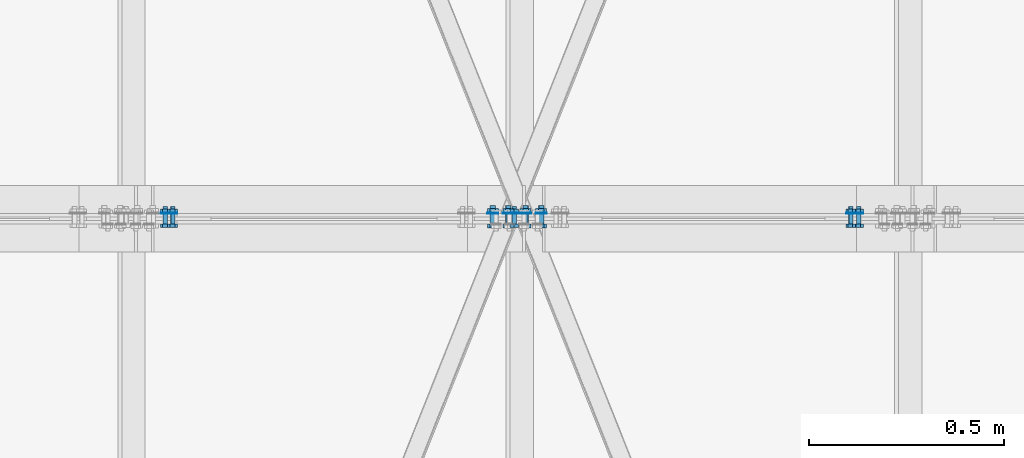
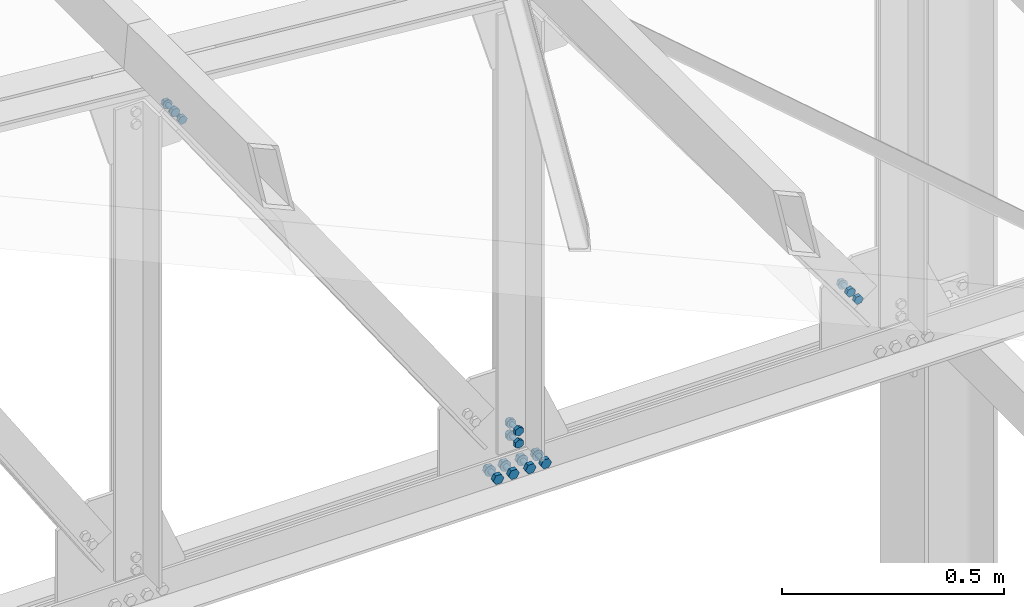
# One storey, part 171 of 251: 40 mechanical fasteners.
"""IFC4 building model written with IfcOpenShell, lengths in metres."""

from ifc_helpers import new_model, si_unit, frame, origin_with_axes, place, context, project, spatial, polyline, outline, extrude, type_object, element, save


model = new_model("IFC4")

# Units and contexts
model_context = context("Model", 3, precision=1e-05, world=origin_with_axes())
ifc_project = project(units=[si_unit("LENGTHUNIT", "METRE"), si_unit("AREAUNIT", "SQUARE_METRE"), si_unit("VOLUMEUNIT", "CUBIC_METRE"), si_unit("MASSUNIT", "GRAM", prefix="KILO"), si_unit("TIMEUNIT", "SECOND"), si_unit("PLANEANGLEUNIT", "RADIAN"), si_unit("SOLIDANGLEUNIT", "STERADIAN"), si_unit("THERMODYNAMICTEMPERATUREUNIT", "DEGREE_CELSIUS")], contexts=[model_context])

# Site, building, storey
placement_1 = place(None, origin_with_axes())
site = spatial("IfcSite", under=ifc_project, at=placement_1, Name="Italia", CompositionType="ELEMENT")
building = spatial("IfcBuilding", under=site, at=placement_1, Name="Deposito", CompositionType="ELEMENT")
storey = spatial("IfcBuildingStorey", under=building, at=placement_1, Name="Storey 0", CompositionType="ELEMENT", Elevation=0.0)

# Mechanical fasteners
mechanical_fastener_type_1 = type_object("IfcMechanicalFastenerType", Name="Reticolare 5", PredefinedType="BOLT")
placement_2 = place(placement_1, origin_with_axes())
mechanical_fastener_1_placement = place(placement_2, origin_with_axes())
element("IfcMechanicalFastener", 1, at=mechanical_fastener_1_placement, inside=storey, type_object=mechanical_fastener_type_1, Name="Reticolare 5", NominalDiameter=0.0139997, context=model_context, shape_type="SweptSolid", body=[
    extrude(outline(polyline([(0.0, 0.0), (-0.0140009, 0.0), (-0.0210009, 0.0121241), (-0.0140009, 0.0242486), (0.0, 0.0242486), (0.00699997, 0.0121241), (0.0, 0.0)])), frame((16.0002, 14.987, 4.99688), z_axis=(0.0, -1.0, 0.0), x_axis=(1.0, 0.0, 0.0)), (0.0, 0.0, 1.0), 0.0112009),
])
mechanical_fastener_type_2 = type_object("IfcMechanicalFastenerType", Name="Reticolare 5", PredefinedType="BOLT")
mechanical_fastener_2_placement = place(placement_2, origin_with_axes())
element("IfcMechanicalFastener", 2, at=mechanical_fastener_2_placement, inside=storey, type_object=mechanical_fastener_type_2, Name="Reticolare 5", NominalDiameter=0.014, context=model_context, shape_type="SweptSolid", body=[
    extrude(outline(polyline([(0.0, 0.0), (-0.000238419, -0.0018115), (-0.000937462, -0.00349998), (-0.0020504, -0.00494957), (-0.00349998, -0.00606203), (-0.00518799, -0.00676155), (-0.00699997, -0.00699997), (-0.00881195, -0.00676155), (-0.0105, -0.00606203), (-0.0119495, -0.00494957), (-0.0130625, -0.00349998), (-0.0137615, -0.0018115), (-0.0139999, 0.0), (-0.0137615, 0.0018115), (-0.0130625, 0.00349998), (-0.0119495, 0.00494957), (-0.0105, 0.00606203), (-0.00881195, 0.00676155), (-0.00699997, 0.00699997), (-0.00518799, 0.00676155), (-0.00349998, 0.00606203), (-0.0020504, 0.00494957), (-0.000937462, 0.00349998), (-0.000238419, 0.0018115), (0.0, 0.0)])), frame((16.0002, 15.034, 5.009), z_axis=(0.0, -1.0, 0.0), x_axis=(1.0, 0.0, 0.0)), (0.0, 0.0, 1.0), 0.0469999),
])
mechanical_fastener_type_3 = type_object("IfcMechanicalFastenerType", Name="Reticolare 5", PredefinedType="BOLT")
mechanical_fastener_3_placement = place(placement_2, origin_with_axes())
element("IfcMechanicalFastener", 3, at=mechanical_fastener_3_placement, inside=storey, type_object=mechanical_fastener_type_3, Name="Reticolare 5", NominalDiameter=0.0139997, context=model_context, shape_type="SweptSolid", body=[
    extrude(outline(polyline([(0.0, 0.0), (-0.0140009, 0.0), (-0.0210009, 0.0121241), (-0.0140009, 0.0242486), (0.0, 0.0242486), (0.00699997, 0.0121241), (0.0, 0.0)])), frame((16.0002, 15.0262, 4.99688), z_axis=(0.0, -1.0, 0.0), x_axis=(1.0, 0.0, 0.0)), (0.0, 0.0, 1.0), 0.0112),
])
mechanical_fastener_type_4 = type_object("IfcMechanicalFastenerType", Name="Reticolare 5", PredefinedType="BOLT")
mechanical_fastener_4_placement = place(placement_2, origin_with_axes())
element("IfcMechanicalFastener", 4, at=mechanical_fastener_4_placement, inside=storey, type_object=mechanical_fastener_type_4, Name="Reticolare 5", NominalDiameter=0.028, context=model_context, shape_type="SweptSolid", body=[
    extrude(outline(polyline([(0.0, 0.0), (-0.000478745, -0.00362349), (-0.00187683, -0.00699997), (-0.0041008, -0.00989962), (-0.00699997, -0.0121245), (-0.0103779, -0.0135231), (-0.0140009, -0.0139999), (-0.0176239, -0.0135231), (-0.0210009, -0.0121245), (-0.0239, -0.00989962), (-0.026125, -0.00699997), (-0.027524, -0.00362349), (-0.0280008, 0.0), (-0.027524, 0.00362349), (-0.026125, 0.00699997), (-0.0239, 0.00989962), (-0.0210009, 0.0121245), (-0.0176239, 0.0135231), (-0.0140009, 0.0139999), (-0.0103779, 0.0135231), (-0.00699997, 0.0121245), (-0.0041008, 0.00989962), (-0.00187683, 0.00699997), (-0.000478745, 0.00362349), (0.0, 0.0)])), frame((16.0072, 15.015, 5.009), z_axis=(0.0, -1.0, 0.0), x_axis=(1.0, 0.0, 0.0)), (0.0, 0.0, 1.0), 0.00200081),
])
mechanical_fastener_type_5 = type_object("IfcMechanicalFastenerType", Name="Reticolare 5", PredefinedType="BOLT")
mechanical_fastener_5_placement = place(placement_2, origin_with_axes())
element("IfcMechanicalFastener", 5, at=mechanical_fastener_5_placement, inside=storey, type_object=mechanical_fastener_type_5, Name="Reticolare 5", NominalDiameter=0.0139997, context=model_context, shape_type="SweptSolid", body=[
    extrude(outline(polyline([(0.0, 0.0), (-0.0139999, 0.0), (-0.0209999, 0.0121241), (-0.0139999, 0.0242486), (0.0, 0.0242486), (0.00699997, 0.0121241), (0.0, 0.0)])), frame((15.9602, 14.987, 4.99688), z_axis=(0.0, -1.0, 0.0), x_axis=(1.0, 0.0, 0.0)), (0.0, 0.0, 1.0), 0.0112009),
])
mechanical_fastener_type_6 = type_object("IfcMechanicalFastenerType", Name="Reticolare 5", PredefinedType="BOLT")
mechanical_fastener_6_placement = place(placement_2, origin_with_axes())
element("IfcMechanicalFastener", 6, at=mechanical_fastener_6_placement, inside=storey, type_object=mechanical_fastener_type_6, Name="Reticolare 5", NominalDiameter=0.014, context=model_context, shape_type="SweptSolid", body=[
    extrude(outline(polyline([(0.0, 0.0), (-0.000238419, -0.0018115), (-0.000937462, -0.00349998), (-0.0020504, -0.00494957), (-0.00349998, -0.00606203), (-0.00518799, -0.00676155), (-0.00699997, -0.00699997), (-0.00881195, -0.00676155), (-0.0105, -0.00606203), (-0.0119495, -0.00494957), (-0.0130625, -0.00349998), (-0.0137615, -0.0018115), (-0.0139999, 0.0), (-0.0137615, 0.0018115), (-0.0130625, 0.00349998), (-0.0119495, 0.00494957), (-0.0105, 0.00606203), (-0.00881195, 0.00676155), (-0.00699997, 0.00699997), (-0.00518799, 0.00676155), (-0.00349998, 0.00606203), (-0.0020504, 0.00494957), (-0.000937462, 0.00349998), (-0.000238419, 0.0018115), (0.0, 0.0)])), frame((15.9602, 15.034, 5.009), z_axis=(0.0, -1.0, 0.0), x_axis=(1.0, 0.0, 0.0)), (0.0, 0.0, 1.0), 0.0469999),
])
mechanical_fastener_type_7 = type_object("IfcMechanicalFastenerType", Name="Reticolare 5", PredefinedType="BOLT")
mechanical_fastener_7_placement = place(placement_2, origin_with_axes())
element("IfcMechanicalFastener", 7, at=mechanical_fastener_7_placement, inside=storey, type_object=mechanical_fastener_type_7, Name="Reticolare 5", NominalDiameter=0.0139997, context=model_context, shape_type="SweptSolid", body=[
    extrude(outline(polyline([(0.0, 0.0), (-0.0139999, 0.0), (-0.0209999, 0.0121241), (-0.0139999, 0.0242486), (0.0, 0.0242486), (0.00699997, 0.0121241), (0.0, 0.0)])), frame((15.9602, 15.0262, 4.99688), z_axis=(0.0, -1.0, 0.0), x_axis=(1.0, 0.0, 0.0)), (0.0, 0.0, 1.0), 0.0112),
])
mechanical_fastener_type_8 = type_object("IfcMechanicalFastenerType", Name="Reticolare 5", PredefinedType="BOLT")
mechanical_fastener_8_placement = place(placement_2, origin_with_axes())
element("IfcMechanicalFastener", 8, at=mechanical_fastener_8_placement, inside=storey, type_object=mechanical_fastener_type_8, Name="Reticolare 5", NominalDiameter=0.028, context=model_context, shape_type="SweptSolid", body=[
    extrude(outline(polyline([(0.0, 0.0), (-0.000476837, -0.00362349), (-0.00187588, -0.00699997), (-0.0041008, -0.00989962), (-0.00699997, -0.0121245), (-0.0103769, -0.0135231), (-0.0139999, -0.0139999), (-0.0176229, -0.0135231), (-0.0209999, -0.0121245), (-0.0238991, -0.00989962), (-0.026124, -0.00699997), (-0.027523, -0.00362349), (-0.0279999, 0.0), (-0.027523, 0.00362349), (-0.026124, 0.00699997), (-0.0238991, 0.00989962), (-0.0209999, 0.0121245), (-0.0176229, 0.0135231), (-0.0139999, 0.0139999), (-0.0103769, 0.0135231), (-0.00699997, 0.0121245), (-0.0041008, 0.00989962), (-0.00187588, 0.00699997), (-0.000476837, 0.00362349), (0.0, 0.0)])), frame((15.9672, 15.015, 5.009), z_axis=(0.0, -1.0, 0.0), x_axis=(1.0, 0.0, 0.0)), (0.0, 0.0, 1.0), 0.00200081),
])
mechanical_fastener_type_9 = type_object("IfcMechanicalFastenerType", Name="Reticolare 5", PredefinedType="BOLT")
mechanical_fastener_9_placement = place(placement_2, origin_with_axes())
element("IfcMechanicalFastener", 9, at=mechanical_fastener_9_placement, inside=storey, type_object=mechanical_fastener_type_9, Name="Reticolare 5", NominalDiameter=0.0139997, context=model_context, shape_type="SweptSolid", body=[
    extrude(outline(polyline([(0.0, 0.0), (-0.0139999, 0.0), (-0.0209999, 0.0121241), (-0.0139999, 0.0242486), (0.0, 0.0242486), (0.00699997, 0.0121241), (0.0, 0.0)])), frame((16.0442, 14.987, 4.99688), z_axis=(0.0, -1.0, 0.0), x_axis=(1.0, 0.0, 0.0)), (0.0, 0.0, 1.0), 0.0112009),
])
mechanical_fastener_type_10 = type_object("IfcMechanicalFastenerType", Name="Reticolare 5", PredefinedType="BOLT")
mechanical_fastener_10_placement = place(placement_2, origin_with_axes())
element("IfcMechanicalFastener", 10, at=mechanical_fastener_10_placement, inside=storey, type_object=mechanical_fastener_type_10, Name="Reticolare 5", NominalDiameter=0.014, context=model_context, shape_type="SweptSolid", body=[
    extrude(outline(polyline([(0.0, 0.0), (-0.000238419, -0.0018115), (-0.000938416, -0.00349998), (-0.0020504, -0.00494957), (-0.00349998, -0.00606203), (-0.00518799, -0.00676155), (-0.00699997, -0.00699997), (-0.00881195, -0.00676155), (-0.0105, -0.00606203), (-0.0119495, -0.00494957), (-0.0130615, -0.00349998), (-0.0137615, -0.0018115), (-0.0139999, 0.0), (-0.0137615, 0.0018115), (-0.0130615, 0.00349998), (-0.0119495, 0.00494957), (-0.0105, 0.00606203), (-0.00881195, 0.00676155), (-0.00699997, 0.00699997), (-0.00518799, 0.00676155), (-0.00349998, 0.00606203), (-0.0020504, 0.00494957), (-0.000938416, 0.00349998), (-0.000238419, 0.0018115), (0.0, 0.0)])), frame((16.0442, 15.034, 5.009), z_axis=(0.0, -1.0, 0.0), x_axis=(1.0, 0.0, 0.0)), (0.0, 0.0, 1.0), 0.0469999),
])
mechanical_fastener_type_11 = type_object("IfcMechanicalFastenerType", Name="Reticolare 5", PredefinedType="BOLT")
mechanical_fastener_11_placement = place(placement_2, origin_with_axes())
element("IfcMechanicalFastener", 11, at=mechanical_fastener_11_placement, inside=storey, type_object=mechanical_fastener_type_11, Name="Reticolare 5", NominalDiameter=0.0139997, context=model_context, shape_type="SweptSolid", body=[
    extrude(outline(polyline([(0.0, 0.0), (-0.0139999, 0.0), (-0.0209999, 0.0121241), (-0.0139999, 0.0242486), (0.0, 0.0242486), (0.00699997, 0.0121241), (0.0, 0.0)])), frame((16.0442, 15.0262, 4.99688), z_axis=(0.0, -1.0, 0.0), x_axis=(1.0, 0.0, 0.0)), (0.0, 0.0, 1.0), 0.0112),
])
mechanical_fastener_type_12 = type_object("IfcMechanicalFastenerType", Name="Reticolare 5", PredefinedType="BOLT")
mechanical_fastener_12_placement = place(placement_2, origin_with_axes())
element("IfcMechanicalFastener", 12, at=mechanical_fastener_12_placement, inside=storey, type_object=mechanical_fastener_type_12, Name="Reticolare 5", NominalDiameter=0.028, context=model_context, shape_type="SweptSolid", body=[
    extrude(outline(polyline([(0.0, 0.0), (-0.000476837, -0.00362349), (-0.00187492, -0.00699997), (-0.0041008, -0.00989962), (-0.00699997, -0.0121245), (-0.010376, -0.0135231), (-0.0139999, -0.0139999), (-0.0176239, -0.0135231), (-0.0209999, -0.0121245), (-0.0238991, -0.00989962), (-0.026125, -0.00699997), (-0.027523, -0.00362349), (-0.0279999, 0.0), (-0.027523, 0.00362349), (-0.026125, 0.00699997), (-0.0238991, 0.00989962), (-0.0209999, 0.0121245), (-0.0176239, 0.0135231), (-0.0139999, 0.0139999), (-0.010376, 0.0135231), (-0.00699997, 0.0121245), (-0.0041008, 0.00989962), (-0.00187492, 0.00699997), (-0.000476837, 0.00362349), (0.0, 0.0)])), frame((16.0512, 15.015, 5.009), z_axis=(0.0, -1.0, 0.0), x_axis=(1.0, 0.0, 0.0)), (0.0, 0.0, 1.0), 0.00200081),
])
mechanical_fastener_type_13 = type_object("IfcMechanicalFastenerType", Name="Reticolare 5", PredefinedType="BOLT")
mechanical_fastener_13_placement = place(placement_2, origin_with_axes())
element("IfcMechanicalFastener", 13, at=mechanical_fastener_13_placement, inside=storey, type_object=mechanical_fastener_type_13, Name="Reticolare 5", NominalDiameter=0.0139997, context=model_context, shape_type="SweptSolid", body=[
    extrude(outline(polyline([(0.0, 0.0), (-0.0139999, 0.0), (-0.0209999, 0.0121241), (-0.0139999, 0.0242486), (0.0, 0.0242486), (0.00699997, 0.0121241), (0.0, 0.0)])), frame((16.0842, 14.987, 4.99688), z_axis=(0.0, -1.0, 0.0), x_axis=(1.0, 0.0, 0.0)), (0.0, 0.0, 1.0), 0.0112009),
])
mechanical_fastener_type_14 = type_object("IfcMechanicalFastenerType", Name="Reticolare 5", PredefinedType="BOLT")
mechanical_fastener_14_placement = place(placement_2, origin_with_axes())
element("IfcMechanicalFastener", 14, at=mechanical_fastener_14_placement, inside=storey, type_object=mechanical_fastener_type_14, Name="Reticolare 5", NominalDiameter=0.014, context=model_context, shape_type="SweptSolid", body=[
    extrude(outline(polyline([(0.0, 0.0), (-0.000238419, -0.0018115), (-0.000938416, -0.00349998), (-0.0020504, -0.00494957), (-0.00349998, -0.00606203), (-0.00518799, -0.00676155), (-0.00699997, -0.00699997), (-0.00881195, -0.00676155), (-0.0105, -0.00606203), (-0.0119495, -0.00494957), (-0.0130615, -0.00349998), (-0.0137615, -0.0018115), (-0.0139999, 0.0), (-0.0137615, 0.0018115), (-0.0130615, 0.00349998), (-0.0119495, 0.00494957), (-0.0105, 0.00606203), (-0.00881195, 0.00676155), (-0.00699997, 0.00699997), (-0.00518799, 0.00676155), (-0.00349998, 0.00606203), (-0.0020504, 0.00494957), (-0.000938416, 0.00349998), (-0.000238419, 0.0018115), (0.0, 0.0)])), frame((16.0842, 15.034, 5.009), z_axis=(0.0, -1.0, 0.0), x_axis=(1.0, 0.0, 0.0)), (0.0, 0.0, 1.0), 0.0469999),
])
mechanical_fastener_type_15 = type_object("IfcMechanicalFastenerType", Name="Reticolare 5", PredefinedType="BOLT")
mechanical_fastener_15_placement = place(placement_2, origin_with_axes())
element("IfcMechanicalFastener", 15, at=mechanical_fastener_15_placement, inside=storey, type_object=mechanical_fastener_type_15, Name="Reticolare 5", NominalDiameter=0.0139997, context=model_context, shape_type="SweptSolid", body=[
    extrude(outline(polyline([(0.0, 0.0), (-0.0139999, 0.0), (-0.0209999, 0.0121241), (-0.0139999, 0.0242486), (0.0, 0.0242486), (0.00699997, 0.0121241), (0.0, 0.0)])), frame((16.0842, 15.0262, 4.99688), z_axis=(0.0, -1.0, 0.0), x_axis=(1.0, 0.0, 0.0)), (0.0, 0.0, 1.0), 0.0112),
])
mechanical_fastener_type_16 = type_object("IfcMechanicalFastenerType", Name="Reticolare 5", PredefinedType="BOLT")
mechanical_fastener_16_placement = place(placement_2, origin_with_axes())
element("IfcMechanicalFastener", 16, at=mechanical_fastener_16_placement, inside=storey, type_object=mechanical_fastener_type_16, Name="Reticolare 5", NominalDiameter=0.028, context=model_context, shape_type="SweptSolid", body=[
    extrude(outline(polyline([(0.0, 0.0), (-0.000476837, -0.00362349), (-0.00187492, -0.00699997), (-0.0041008, -0.00989962), (-0.00699997, -0.0121245), (-0.010376, -0.0135231), (-0.0139999, -0.0139999), (-0.0176239, -0.0135231), (-0.0209999, -0.0121245), (-0.0238991, -0.00989962), (-0.026125, -0.00699997), (-0.027523, -0.00362349), (-0.0279999, 0.0), (-0.027523, 0.00362349), (-0.026125, 0.00699997), (-0.0238991, 0.00989962), (-0.0209999, 0.0121245), (-0.0176239, 0.0135231), (-0.0139999, 0.0139999), (-0.010376, 0.0135231), (-0.00699997, 0.0121245), (-0.0041008, 0.00989962), (-0.00187492, 0.00699997), (-0.000476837, 0.00362349), (0.0, 0.0)])), frame((16.0912, 15.015, 5.009), z_axis=(0.0, -1.0, 0.0), x_axis=(1.0, 0.0, 0.0)), (0.0, 0.0, 1.0), 0.00200081),
])
mechanical_fastener_type_17 = type_object("IfcMechanicalFastenerType", Name="Reticolare 5", PredefinedType="BOLT")
mechanical_fastener_17_placement = place(placement_2, origin_with_axes())
element("IfcMechanicalFastener", 17, at=mechanical_fastener_17_placement, inside=storey, type_object=mechanical_fastener_type_17, Name="Reticolare 5", NominalDiameter=0.0119999, context=model_context, shape_type="SweptSolid", body=[
    extrude(outline(polyline([(0.0, 0.0), (0.0, -0.0120001), (-0.0103931, -0.0180001), (-0.0207853, -0.0120001), (-0.0207853, 0.0), (-0.0103931, 0.00600004), (0.0, 0.0)])), frame((16.0186, 14.987, 5.09253), z_axis=(0.0, -1.0, 0.0), x_axis=(1.0, 0.0, 0.0)), (0.0, 0.0, 1.0), 0.00960064),
])
mechanical_fastener_type_18 = type_object("IfcMechanicalFastenerType", Name="Reticolare 5", PredefinedType="BOLT")
mechanical_fastener_18_placement = place(placement_2, origin_with_axes())
element("IfcMechanicalFastener", 18, at=mechanical_fastener_18_placement, inside=storey, type_object=mechanical_fastener_type_18, Name="Reticolare 5", NominalDiameter=0.012, context=model_context, shape_type="SweptSolid", body=[
    extrude(outline(polyline([(0.0, 0.0), (-0.000204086, -0.00155306), (-0.000804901, -0.00299978), (-0.00175858, -0.00424242), (-0.00300026, -0.00519609), (-0.00444794, -0.00579548), (-0.00600052, -0.00600004), (-0.0075531, -0.00579548), (-0.00900078, -0.00519609), (-0.0102425, -0.00424242), (-0.0111961, -0.00299978), (-0.011797, -0.00155306), (-0.012001, 0.0), (-0.011797, 0.00155306), (-0.0111961, 0.00299978), (-0.0102425, 0.00424242), (-0.00900078, 0.00519609), (-0.0075531, 0.00579548), (-0.00600052, 0.00600004), (-0.00444794, 0.00579548), (-0.00300026, 0.00519609), (-0.00175858, 0.00424242), (-0.000804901, 0.00299978), (-0.000204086, 0.00155306), (0.0, 0.0)])), frame((16.0142, 15.031, 5.08653), z_axis=(0.0, -1.0, 0.0), x_axis=(1.0, 0.0, 0.0)), (0.0, 0.0, 1.0), 0.0439997),
])
mechanical_fastener_type_19 = type_object("IfcMechanicalFastenerType", Name="Reticolare 5", PredefinedType="BOLT")
mechanical_fastener_19_placement = place(placement_2, origin_with_axes())
element("IfcMechanicalFastener", 19, at=mechanical_fastener_19_placement, inside=storey, type_object=mechanical_fastener_type_19, Name="Reticolare 5", NominalDiameter=0.0119999, context=model_context, shape_type="SweptSolid", body=[
    extrude(outline(polyline([(0.0, 0.0), (0.0, -0.0120001), (-0.0103931, -0.0180001), (-0.0207853, -0.0120001), (-0.0207853, 0.0), (-0.0103931, 0.00600004), (0.0, 0.0)])), frame((16.0186, 15.0246, 5.09253), z_axis=(0.0, -1.0, 0.0), x_axis=(1.0, 0.0, 0.0)), (0.0, 0.0, 1.0), 0.00959969),
])
mechanical_fastener_type_20 = type_object("IfcMechanicalFastenerType", Name="Reticolare 5", PredefinedType="BOLT")
mechanical_fastener_20_placement = place(placement_2, origin_with_axes())
element("IfcMechanicalFastener", 20, at=mechanical_fastener_20_placement, inside=storey, type_object=mechanical_fastener_type_20, Name="Reticolare 5", NominalDiameter=0.024, context=model_context, shape_type="SweptSolid", body=[
    extrude(outline(polyline([(0.0, 0.0), (-0.000408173, -0.00310564), (-0.00160599, -0.00600004), (-0.00351334, -0.00848532), (-0.00599861, -0.0103922), (-0.00889397, -0.011591), (-0.0119991, -0.0120001), (-0.0151043, -0.011591), (-0.0179996, -0.0103922), (-0.020484, -0.00848532), (-0.0223913, -0.00600004), (-0.0235901, -0.00310564), (-0.0239992, 0.0), (-0.0235901, 0.00310564), (-0.0223913, 0.00600004), (-0.020484, 0.00848532), (-0.0179996, 0.0103922), (-0.0151043, 0.011591), (-0.0119991, 0.0120001), (-0.00889397, 0.011591), (-0.00599861, 0.0103922), (-0.00351334, 0.00848532), (-0.00160599, 0.00600004), (-0.000408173, 0.00310564), (0.0, 0.0)])), frame((16.0202, 15.015, 5.08653), z_axis=(0.0, -1.0, 0.0), x_axis=(1.0, 0.0, 0.0)), (0.0, 0.0, 1.0), 0.00200081),
])
mechanical_fastener_type_21 = type_object("IfcMechanicalFastenerType", Name="Reticolare 5", PredefinedType="BOLT")
mechanical_fastener_21_placement = place(placement_2, origin_with_axes())
element("IfcMechanicalFastener", 21, at=mechanical_fastener_21_placement, inside=storey, type_object=mechanical_fastener_type_21, Name="Reticolare 5", NominalDiameter=0.0119999, context=model_context, shape_type="SweptSolid", body=[
    extrude(outline(polyline([(0.0, 0.0), (0.0, -0.0120001), (-0.0103931, -0.0180001), (-0.0207853, -0.0120001), (-0.0207853, 0.0), (-0.0103931, 0.00600004), (0.0, 0.0)])), frame((16.0186, 14.987, 5.12653), z_axis=(0.0, -1.0, 0.0), x_axis=(1.0, 0.0, 0.0)), (0.0, 0.0, 1.0), 0.00960064),
])
mechanical_fastener_type_22 = type_object("IfcMechanicalFastenerType", Name="Reticolare 5", PredefinedType="BOLT")
mechanical_fastener_22_placement = place(placement_2, origin_with_axes())
element("IfcMechanicalFastener", 22, at=mechanical_fastener_22_placement, inside=storey, type_object=mechanical_fastener_type_22, Name="Reticolare 5", NominalDiameter=0.012, context=model_context, shape_type="SweptSolid", body=[
    extrude(outline(polyline([(0.0, 0.0), (-0.000204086, -0.00155306), (-0.000804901, -0.00299978), (-0.00175858, -0.00424242), (-0.00300026, -0.00519609), (-0.00444794, -0.00579548), (-0.00600052, -0.00600004), (-0.0075531, -0.00579548), (-0.00900078, -0.00519609), (-0.0102425, -0.00424242), (-0.0111961, -0.00299978), (-0.011797, -0.00155306), (-0.012001, 0.0), (-0.011797, 0.00155306), (-0.0111961, 0.00299978), (-0.0102425, 0.00424242), (-0.00900078, 0.00519609), (-0.0075531, 0.00579548), (-0.00600052, 0.00600004), (-0.00444794, 0.00579548), (-0.00300026, 0.00519609), (-0.00175858, 0.00424242), (-0.000804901, 0.00299978), (-0.000204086, 0.00155306), (0.0, 0.0)])), frame((16.0142, 15.031, 5.12053), z_axis=(0.0, -1.0, 0.0), x_axis=(1.0, 0.0, 0.0)), (0.0, 0.0, 1.0), 0.0439997),
])
mechanical_fastener_type_23 = type_object("IfcMechanicalFastenerType", Name="Reticolare 5", PredefinedType="BOLT")
mechanical_fastener_23_placement = place(placement_2, origin_with_axes())
element("IfcMechanicalFastener", 23, at=mechanical_fastener_23_placement, inside=storey, type_object=mechanical_fastener_type_23, Name="Reticolare 5", NominalDiameter=0.0119999, context=model_context, shape_type="SweptSolid", body=[
    extrude(outline(polyline([(0.0, 0.0), (0.0, -0.0120001), (-0.0103931, -0.0180001), (-0.0207853, -0.0120001), (-0.0207853, 0.0), (-0.0103931, 0.00600004), (0.0, 0.0)])), frame((16.0186, 15.0246, 5.12653), z_axis=(0.0, -1.0, 0.0), x_axis=(1.0, 0.0, 0.0)), (0.0, 0.0, 1.0), 0.00959969),
])
mechanical_fastener_type_24 = type_object("IfcMechanicalFastenerType", Name="Reticolare 5", PredefinedType="BOLT")
mechanical_fastener_24_placement = place(placement_2, origin_with_axes())
element("IfcMechanicalFastener", 24, at=mechanical_fastener_24_placement, inside=storey, type_object=mechanical_fastener_type_24, Name="Reticolare 5", NominalDiameter=0.024, context=model_context, shape_type="SweptSolid", body=[
    extrude(outline(polyline([(0.0, 0.0), (-0.000408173, -0.00310564), (-0.00160599, -0.00600004), (-0.00351334, -0.00848532), (-0.00599861, -0.0103922), (-0.00889397, -0.011591), (-0.0119991, -0.0120001), (-0.0151043, -0.011591), (-0.0179996, -0.0103922), (-0.020484, -0.00848532), (-0.0223913, -0.00600004), (-0.0235901, -0.00310564), (-0.0239992, 0.0), (-0.0235901, 0.00310564), (-0.0223913, 0.00600004), (-0.020484, 0.00848532), (-0.0179996, 0.0103922), (-0.0151043, 0.011591), (-0.0119991, 0.0120001), (-0.00889397, 0.011591), (-0.00599861, 0.0103922), (-0.00351334, 0.00848532), (-0.00160599, 0.00600004), (-0.000408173, 0.00310564), (0.0, 0.0)])), frame((16.0202, 15.015, 5.12053), z_axis=(0.0, -1.0, 0.0), x_axis=(1.0, 0.0, 0.0)), (0.0, 0.0, 1.0), 0.00200081),
])
mechanical_fastener_type_25 = type_object("IfcMechanicalFastenerType", Name="Reticolare 5", PredefinedType="BOLT")
mechanical_fastener_25_placement = place(placement_2, origin_with_axes())
element("IfcMechanicalFastener", 25, at=mechanical_fastener_25_placement, inside=storey, type_object=mechanical_fastener_type_25, Name="Reticolare 5", NominalDiameter=0.0119989, context=model_context, shape_type="SweptSolid", body=[
    extrude(outline(polyline([(0.0, 0.0), (-0.00712967, 0.00965214), (-0.0023365, 0.0206528), (0.00958824, 0.0220017), (0.0167179, 0.0123491), (0.0119228, 0.0013485), (0.0, 0.0)])), frame((16.8872, 14.987, 5.16246), z_axis=(0.0, -1.0, 0.0), x_axis=(1.0, 0.0, 0.0)), (0.0, 0.0, 1.0), 0.00960064),
])
mechanical_fastener_type_26 = type_object("IfcMechanicalFastenerType", Name="Reticolare 5", PredefinedType="BOLT")
mechanical_fastener_26_placement = place(placement_2, origin_with_axes())
element("IfcMechanicalFastener", 26, at=mechanical_fastener_26_placement, inside=storey, type_object=mechanical_fastener_type_26, Name="Reticolare 5", NominalDiameter=0.012, context=model_context, shape_type="SweptSolid", body=[
    extrude(outline(polyline([(0.0, 0.0), (-0.000204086, -0.00155306), (-0.000804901, -0.00299978), (-0.00175858, -0.00424242), (-0.00300026, -0.00519609), (-0.00444794, -0.00579548), (-0.00600052, -0.00600004), (-0.0075531, -0.00579548), (-0.00900078, -0.00519609), (-0.0102425, -0.00424242), (-0.0111961, -0.00299978), (-0.011797, -0.00155306), (-0.012001, 0.0), (-0.011797, 0.00155306), (-0.0111961, 0.00299978), (-0.0102425, 0.00424242), (-0.00900078, 0.00519609), (-0.0075531, 0.00579548), (-0.00600052, 0.00600004), (-0.00444794, 0.00579548), (-0.00300026, 0.00519609), (-0.00175858, 0.00424242), (-0.000804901, 0.00299978), (-0.000204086, 0.00155306), (0.0, 0.0)])), frame((16.898, 15.031, 5.17346), z_axis=(0.0, -1.0, 0.0), x_axis=(1.0, 0.0, 0.0)), (0.0, 0.0, 1.0), 0.0439997),
])
mechanical_fastener_type_27 = type_object("IfcMechanicalFastenerType", Name="Reticolare 5", PredefinedType="BOLT")
mechanical_fastener_27_placement = place(placement_2, origin_with_axes())
element("IfcMechanicalFastener", 27, at=mechanical_fastener_27_placement, inside=storey, type_object=mechanical_fastener_type_27, Name="Reticolare 5", NominalDiameter=0.0119989, context=model_context, shape_type="SweptSolid", body=[
    extrude(outline(polyline([(0.0, 0.0), (-0.00712967, 0.00965214), (-0.0023365, 0.0206528), (0.00958824, 0.0220017), (0.0167179, 0.0123491), (0.0119228, 0.0013485), (0.0, 0.0)])), frame((16.8872, 15.0246, 5.16246), z_axis=(0.0, -1.0, 0.0), x_axis=(1.0, 0.0, 0.0)), (0.0, 0.0, 1.0), 0.00959969),
])
mechanical_fastener_type_28 = type_object("IfcMechanicalFastenerType", Name="Reticolare 5", PredefinedType="BOLT")
mechanical_fastener_28_placement = place(placement_2, origin_with_axes())
element("IfcMechanicalFastener", 28, at=mechanical_fastener_28_placement, inside=storey, type_object=mechanical_fastener_type_28, Name="Reticolare 5", NominalDiameter=0.024, context=model_context, shape_type="SweptSolid", body=[
    extrude(outline(polyline([(0.0, 0.0), (-0.000408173, -0.00310564), (-0.00160599, -0.00600004), (-0.00351334, -0.00848532), (-0.00599861, -0.0103922), (-0.00889397, -0.011591), (-0.0119991, -0.0120001), (-0.0151043, -0.011591), (-0.0179996, -0.0103922), (-0.0204849, -0.00848532), (-0.0223923, -0.00600004), (-0.0235901, -0.00310564), (-0.0239983, 0.0), (-0.0235901, 0.00310564), (-0.0223923, 0.00600004), (-0.0204849, 0.00848532), (-0.0179996, 0.0103922), (-0.0151043, 0.011591), (-0.0119991, 0.0120001), (-0.00889397, 0.011591), (-0.00599861, 0.0103922), (-0.00351334, 0.00848532), (-0.00160599, 0.00600004), (-0.000408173, 0.00310564), (0.0, 0.0)])), frame((16.904, 15.015, 5.17346), z_axis=(0.0, -1.0, 0.0), x_axis=(1.0, 0.0, 0.0)), (0.0, 0.0, 1.0), 0.00200081),
])
mechanical_fastener_type_29 = type_object("IfcMechanicalFastenerType", Name="Reticolare 5", PredefinedType="BOLT")
mechanical_fastener_29_placement = place(placement_2, origin_with_axes())
element("IfcMechanicalFastener", 29, at=mechanical_fastener_29_placement, inside=storey, type_object=mechanical_fastener_type_29, Name="Reticolare 5", NominalDiameter=0.0119989, context=model_context, shape_type="SweptSolid", body=[
    extrude(outline(polyline([(0.0, 0.0), (-0.00713158, 0.00965214), (-0.0023365, 0.0206528), (0.00958824, 0.0220013), (0.0167179, 0.0123491), (0.0119228, 0.0013485), (0.0, 0.0)])), frame((16.867, 14.987, 5.18981), z_axis=(0.0, -1.0, 0.0), x_axis=(1.0, 0.0, 0.0)), (0.0, 0.0, 1.0), 0.00960064),
])
mechanical_fastener_type_30 = type_object("IfcMechanicalFastenerType", Name="Reticolare 5", PredefinedType="BOLT")
mechanical_fastener_30_placement = place(placement_2, origin_with_axes())
element("IfcMechanicalFastener", 30, at=mechanical_fastener_30_placement, inside=storey, type_object=mechanical_fastener_type_30, Name="Reticolare 5", NominalDiameter=0.012, context=model_context, shape_type="SweptSolid", body=[
    extrude(outline(polyline([(0.0, 0.0), (-0.000204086, -0.00155306), (-0.000804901, -0.00299978), (-0.00175858, -0.00424242), (-0.00300026, -0.00519609), (-0.00444794, -0.00579548), (-0.00600052, -0.00600004), (-0.0075531, -0.00579548), (-0.00900078, -0.00519609), (-0.0102425, -0.00424242), (-0.0111961, -0.00299978), (-0.011797, -0.00155306), (-0.012001, 0.0), (-0.011797, 0.00155306), (-0.0111961, 0.00299978), (-0.0102425, 0.00424242), (-0.00900078, 0.00519609), (-0.0075531, 0.00579548), (-0.00600052, 0.00600004), (-0.00444794, 0.00579548), (-0.00300026, 0.00519609), (-0.00175858, 0.00424242), (-0.000804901, 0.00299978), (-0.000204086, 0.00155306), (0.0, 0.0)])), frame((16.8778, 15.031, 5.20081), z_axis=(0.0, -1.0, 0.0), x_axis=(1.0, 0.0, 0.0)), (0.0, 0.0, 1.0), 0.0439997),
])
mechanical_fastener_type_31 = type_object("IfcMechanicalFastenerType", Name="Reticolare 5", PredefinedType="BOLT")
mechanical_fastener_31_placement = place(placement_2, origin_with_axes())
element("IfcMechanicalFastener", 31, at=mechanical_fastener_31_placement, inside=storey, type_object=mechanical_fastener_type_31, Name="Reticolare 5", NominalDiameter=0.0119989, context=model_context, shape_type="SweptSolid", body=[
    extrude(outline(polyline([(0.0, 0.0), (-0.00713158, 0.00965214), (-0.0023365, 0.0206528), (0.00958824, 0.0220013), (0.0167179, 0.0123491), (0.0119228, 0.0013485), (0.0, 0.0)])), frame((16.867, 15.0246, 5.18981), z_axis=(0.0, -1.0, 0.0), x_axis=(1.0, 0.0, 0.0)), (0.0, 0.0, 1.0), 0.00959969),
])
mechanical_fastener_type_32 = type_object("IfcMechanicalFastenerType", Name="Reticolare 5", PredefinedType="BOLT")
mechanical_fastener_32_placement = place(placement_2, origin_with_axes())
element("IfcMechanicalFastener", 32, at=mechanical_fastener_32_placement, inside=storey, type_object=mechanical_fastener_type_32, Name="Reticolare 5", NominalDiameter=0.024, context=model_context, shape_type="SweptSolid", body=[
    extrude(outline(polyline([(0.0, 0.0), (-0.000408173, -0.00310564), (-0.00160599, -0.00600004), (-0.00351334, -0.00848532), (-0.00599861, -0.0103922), (-0.00889397, -0.011591), (-0.0119991, -0.0120001), (-0.0151043, -0.011591), (-0.0179996, -0.0103922), (-0.0204849, -0.00848532), (-0.0223923, -0.00600004), (-0.0235901, -0.00310564), (-0.0239983, 0.0), (-0.0235901, 0.00310564), (-0.0223923, 0.00600004), (-0.0204849, 0.00848532), (-0.0179996, 0.0103922), (-0.0151043, 0.011591), (-0.0119991, 0.0120001), (-0.00889397, 0.011591), (-0.00599861, 0.0103922), (-0.00351334, 0.00848532), (-0.00160599, 0.00600004), (-0.000408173, 0.00310564), (0.0, 0.0)])), frame((16.8838, 15.015, 5.20081), z_axis=(0.0, -1.0, 0.0), x_axis=(1.0, 0.0, 0.0)), (0.0, 0.0, 1.0), 0.00200081),
])
mechanical_fastener_type_33 = type_object("IfcMechanicalFastenerType", Name="Reticolare 5", PredefinedType="BOLT")
mechanical_fastener_33_placement = place(placement_2, origin_with_axes())
element("IfcMechanicalFastener", 33, at=mechanical_fastener_33_placement, inside=storey, type_object=mechanical_fastener_type_33, Name="Reticolare 5", NominalDiameter=0.0119994, context=model_context, shape_type="SweptSolid", body=[
    extrude(outline(polyline([(0.0, 0.0), (-0.00684071, 0.00985909), (-0.00172234, 0.0207129), (0.0102358, 0.0217075), (0.0170765, 0.0118484), (0.0119591, 0.000994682), (0.0, 0.0)])), frame((15.1078, 14.987, 6.30185), z_axis=(0.0, -1.0, 0.0), x_axis=(1.0, 0.0, 0.0)), (0.0, 0.0, 1.0), 0.00960064),
])
mechanical_fastener_type_34 = type_object("IfcMechanicalFastenerType", Name="Reticolare 5", PredefinedType="BOLT")
mechanical_fastener_34_placement = place(placement_2, origin_with_axes())
element("IfcMechanicalFastener", 34, at=mechanical_fastener_34_placement, inside=storey, type_object=mechanical_fastener_type_34, Name="Reticolare 5", NominalDiameter=0.012, context=model_context, shape_type="SweptSolid", body=[
    extrude(outline(polyline([(0.0, 0.0), (-0.000204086, -0.00155306), (-0.000802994, -0.00299978), (-0.00175667, -0.00424242), (-0.00299931, -0.00519609), (-0.00444698, -0.00579548), (-0.00599957, -0.00600004), (-0.00755215, -0.00579548), (-0.00899982, -0.00519609), (-0.0102425, -0.00424242), (-0.0111961, -0.00299978), (-0.011795, -0.00155306), (-0.0119991, 0.0), (-0.011795, 0.00155306), (-0.0111961, 0.00299978), (-0.0102425, 0.00424242), (-0.00899982, 0.00519609), (-0.00755215, 0.00579548), (-0.00599957, 0.00600004), (-0.00444698, 0.00579548), (-0.00299931, 0.00519609), (-0.00175667, 0.00424242), (-0.000802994, 0.00299978), (-0.000204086, 0.00155306), (0.0, 0.0)])), frame((15.1189, 15.031, 6.3127), z_axis=(0.0, -1.0, 0.0), x_axis=(1.0, 0.0, 0.0)), (0.0, 0.0, 1.0), 0.0439997),
])
mechanical_fastener_type_35 = type_object("IfcMechanicalFastenerType", Name="Reticolare 5", PredefinedType="BOLT")
mechanical_fastener_35_placement = place(placement_2, origin_with_axes())
element("IfcMechanicalFastener", 35, at=mechanical_fastener_35_placement, inside=storey, type_object=mechanical_fastener_type_35, Name="Reticolare 5", NominalDiameter=0.0119994, context=model_context, shape_type="SweptSolid", body=[
    extrude(outline(polyline([(0.0, 0.0), (-0.00684071, 0.00985909), (-0.00172234, 0.0207129), (0.0102358, 0.0217075), (0.0170765, 0.0118484), (0.0119591, 0.000994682), (0.0, 0.0)])), frame((15.1078, 15.0246, 6.30185), z_axis=(0.0, -1.0, 0.0), x_axis=(1.0, 0.0, 0.0)), (0.0, 0.0, 1.0), 0.00959969),
])
mechanical_fastener_type_36 = type_object("IfcMechanicalFastenerType", Name="Reticolare 5", PredefinedType="BOLT")
mechanical_fastener_36_placement = place(placement_2, origin_with_axes())
element("IfcMechanicalFastener", 36, at=mechanical_fastener_36_placement, inside=storey, type_object=mechanical_fastener_type_36, Name="Reticolare 5", NominalDiameter=0.024, context=model_context, shape_type="SweptSolid", body=[
    extrude(outline(polyline([(0.0, 0.0), (-0.000409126, -0.00310564), (-0.00160789, -0.00600004), (-0.00351524, -0.00848532), (-0.00600052, -0.0103922), (-0.00889397, -0.011591), (-0.0120001, -0.0120001), (-0.0151062, -0.011591), (-0.0179996, -0.0103922), (-0.0204849, -0.00848532), (-0.0223923, -0.00600004), (-0.023591, -0.00310564), (-0.0240002, 0.0), (-0.023591, 0.00310564), (-0.0223923, 0.00600004), (-0.0204849, 0.00848532), (-0.0179996, 0.0103922), (-0.0151062, 0.011591), (-0.0120001, 0.0120001), (-0.00889397, 0.011591), (-0.00600052, 0.0103922), (-0.00351524, 0.00848532), (-0.00160789, 0.00600004), (-0.000409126, 0.00310564), (0.0, 0.0)])), frame((15.1249, 15.015, 6.3127), z_axis=(0.0, -1.0, 0.0), x_axis=(1.0, 0.0, 0.0)), (0.0, 0.0, 1.0), 0.00200081),
])
mechanical_fastener_type_37 = type_object("IfcMechanicalFastenerType", Name="Reticolare 5", PredefinedType="BOLT")
mechanical_fastener_37_placement = place(placement_2, origin_with_axes())
element("IfcMechanicalFastener", 37, at=mechanical_fastener_37_placement, inside=storey, type_object=mechanical_fastener_type_37, Name="Reticolare 5", NominalDiameter=0.0119994, context=model_context, shape_type="SweptSolid", body=[
    extrude(outline(polyline([(0.0, 0.0), (-0.00684071, 0.00985909), (-0.00172329, 0.0207129), (0.0102358, 0.0217075), (0.0170765, 0.0118484), (0.0119581, 0.000994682), (0.0, 0.0)])), frame((15.1272, 14.987, 6.27391), z_axis=(0.0, -1.0, 0.0), x_axis=(1.0, 0.0, 0.0)), (0.0, 0.0, 1.0), 0.00960064),
])
mechanical_fastener_type_38 = type_object("IfcMechanicalFastenerType", Name="Reticolare 5", PredefinedType="BOLT")
mechanical_fastener_38_placement = place(placement_2, origin_with_axes())
element("IfcMechanicalFastener", 38, at=mechanical_fastener_38_placement, inside=storey, type_object=mechanical_fastener_type_38, Name="Reticolare 5", NominalDiameter=0.012, context=model_context, shape_type="SweptSolid", body=[
    extrude(outline(polyline([(0.0, 0.0), (-0.000204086, -0.00155306), (-0.000802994, -0.00299978), (-0.00175667, -0.00424242), (-0.00299931, -0.00519609), (-0.00444698, -0.00579548), (-0.00599957, -0.00600004), (-0.00755215, -0.00579548), (-0.00899982, -0.00519609), (-0.0102425, -0.00424242), (-0.0111961, -0.00299978), (-0.011795, -0.00155306), (-0.0119991, 0.0), (-0.011795, 0.00155306), (-0.0111961, 0.00299978), (-0.0102425, 0.00424242), (-0.00899982, 0.00519609), (-0.00755215, 0.00579548), (-0.00599957, 0.00600004), (-0.00444698, 0.00579548), (-0.00299931, 0.00519609), (-0.00175667, 0.00424242), (-0.000802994, 0.00299978), (-0.000204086, 0.00155306), (0.0, 0.0)])), frame((15.1383, 15.031, 6.28477), z_axis=(0.0, -1.0, 0.0), x_axis=(1.0, 0.0, 0.0)), (0.0, 0.0, 1.0), 0.0439997),
])
mechanical_fastener_type_39 = type_object("IfcMechanicalFastenerType", Name="Reticolare 5", PredefinedType="BOLT")
mechanical_fastener_39_placement = place(placement_2, origin_with_axes())
element("IfcMechanicalFastener", 39, at=mechanical_fastener_39_placement, inside=storey, type_object=mechanical_fastener_type_39, Name="Reticolare 5", NominalDiameter=0.0119994, context=model_context, shape_type="SweptSolid", body=[
    extrude(outline(polyline([(0.0, 0.0), (-0.00684071, 0.00985909), (-0.00172329, 0.0207129), (0.0102358, 0.0217075), (0.0170765, 0.0118484), (0.0119581, 0.000994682), (0.0, 0.0)])), frame((15.1272, 15.0246, 6.27391), z_axis=(0.0, -1.0, 0.0), x_axis=(1.0, 0.0, 0.0)), (0.0, 0.0, 1.0), 0.00959969),
])
mechanical_fastener_type_40 = type_object("IfcMechanicalFastenerType", Name="Reticolare 5", PredefinedType="BOLT")
mechanical_fastener_40_placement = place(placement_2, origin_with_axes())
element("IfcMechanicalFastener", 40, at=mechanical_fastener_40_placement, inside=storey, type_object=mechanical_fastener_type_40, Name="Reticolare 5", NominalDiameter=0.024, context=model_context, shape_type="SweptSolid", body=[
    extrude(outline(polyline([(0.0, 0.0), (-0.000409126, -0.00310564), (-0.00160789, -0.00600004), (-0.00351524, -0.00848532), (-0.00600052, -0.0103922), (-0.00889397, -0.011591), (-0.0120001, -0.0120001), (-0.0151062, -0.011591), (-0.0179996, -0.0103922), (-0.0204849, -0.00848532), (-0.0223923, -0.00600004), (-0.023591, -0.00310564), (-0.0240002, 0.0), (-0.023591, 0.00310564), (-0.0223923, 0.00600004), (-0.0204849, 0.00848532), (-0.0179996, 0.0103922), (-0.0151062, 0.011591), (-0.0120001, 0.0120001), (-0.00889397, 0.011591), (-0.00600052, 0.0103922), (-0.00351524, 0.00848532), (-0.00160789, 0.00600004), (-0.000409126, 0.00310564), (0.0, 0.0)])), frame((15.1443, 15.015, 6.28477), z_axis=(0.0, -1.0, 0.0), x_axis=(1.0, 0.0, 0.0)), (0.0, 0.0, 1.0), 0.00200081),
])

save(model, "model.ifc")
